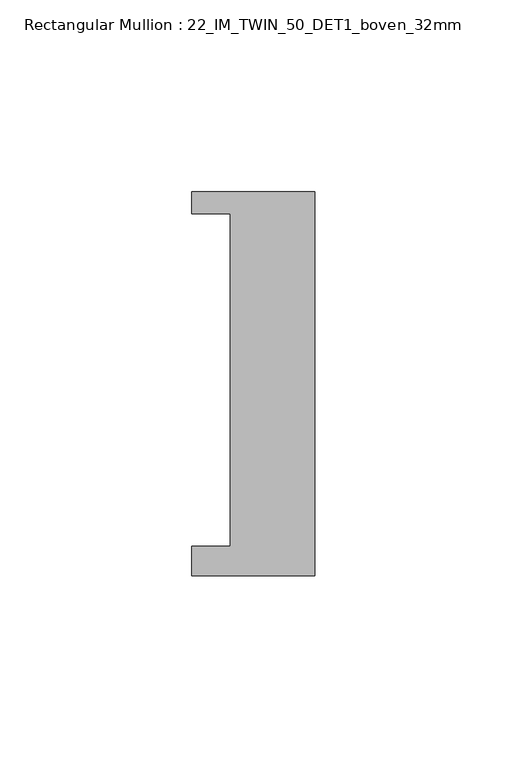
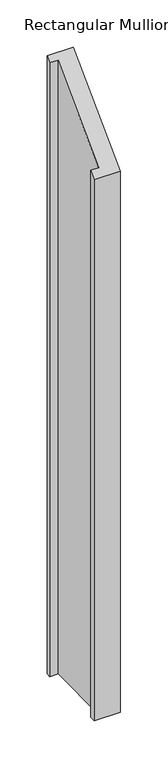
"""IFC4 building model written with IfcOpenShell, lengths in millimetres: member geometry, Rectangular Mullion : 22_IM_TWIN_50_DET1_boven_32mm."""

import ifcopenshell
import ifcopenshell.guid

model = None  # the IFC model being written
_history = None  # IfcOwnerHistory: only IFC2X3 demands one
_inside = {}  # id of a spatial element -> (the spatial element, [elements in it])
_under = {}  # id of a project, library or spatial element -> (it, [spatial elements below it])
_declared = {}  # id of a project -> (the project, [libraries it declares])
_typed = {}  # id of a type object -> (the type object, [elements of that type])
_made_of = {}  # id of a material, layer set ... -> (it, [elements and type objects made of it])


def new_model(schema):
    """Start an empty IFC model of exactly this schema.

    Asked for "IFC4X3", IfcOpenShell would pick the latest addendum, in which some entities
    have other attributes; the version numbers below select the first issue.
    IFC2X3 requires an IfcOwnerHistory on every rooted entity: one is made here for all.
    """
    global model, _history
    if schema == "IFC4X3":
        model = ifcopenshell.file(schema_version=(4, 3, 0, 0))
    else:
        model = ifcopenshell.file(schema=schema)
    _inside.clear()
    _under.clear()
    _declared.clear()
    _typed.clear()
    _made_of.clear()
    _history = None
    if model.schema == "IFC2X3":
        org = make("IfcOrganization", Name="unknown")
        user = make(
            "IfcPersonAndOrganization",
            ThePerson=make("IfcPerson", FamilyName="unknown"),
            TheOrganization=org,
        )
        app = make(
            "IfcApplication",
            ApplicationDeveloper=org,
            Version="unknown",
            ApplicationFullName="unknown",
            ApplicationIdentifier="unknown",
        )
        _history = make(
            "IfcOwnerHistory",
            OwningUser=user,
            OwningApplication=app,
            ChangeAction="ADDED",
            CreationDate=0,
        )
    return model


def make(cls, **values):
    """One entity of the class cls with the attributes given. An attribute that is None is left unset."""
    return model.create_entity(
        cls, **{name: value for name, value in values.items() if value is not None}
    )


def rooted(cls, **values):
    """An entity with a GlobalId (a new one), such as an element, a storey or a relation."""
    return make(cls, GlobalId=ifcopenshell.guid.new(), OwnerHistory=_history, **values)


def si_unit(unit_type, name, prefix=None):
    """IfcSIUnit, for example si_unit("LENGTHUNIT", "METRE", prefix="MILLI")."""
    return make("IfcSIUnit", UnitType=unit_type, Prefix=prefix, Name=name)


def assignment(units):
    """IfcUnitAssignment: the units of a project."""
    return None if units is None else make("IfcUnitAssignment", Units=units)


def point(xyz):
    """IfcCartesianPoint."""
    return None if xyz is None else make("IfcCartesianPoint", Coordinates=xyz)


def direction(xyz):
    """IfcDirection."""
    return None if xyz is None else make("IfcDirection", DirectionRatios=xyz)


def frame(location, z_axis=None, x_axis=None):
    """IfcAxis2Placement3D, a coordinate frame: its origin and axes. An axis left out is left unset."""
    return make(
        "IfcAxis2Placement3D",
        Location=point(location),
        Axis=direction(z_axis),
        RefDirection=direction(x_axis),
    )


def origin():
    """The frame at (0, 0, 0) with its axes left unset."""
    return frame((0.0, 0.0, 0.0))


def place(relative_to, where):
    """IfcLocalPlacement: puts the frame where relative to a parent placement (None: the world)."""
    return make(
        "IfcLocalPlacement", PlacementRelTo=relative_to, RelativePlacement=where
    )


def context(
    kind, dimensions, precision=None, world=None, true_north=None, identifier=None
):
    """IfcGeometricRepresentationContext, for example the 3D "Model" context."""
    return make(
        "IfcGeometricRepresentationContext",
        ContextIdentifier=identifier,
        ContextType=kind,
        CoordinateSpaceDimension=dimensions,
        Precision=precision,
        WorldCoordinateSystem=world,
        TrueNorth=true_north,
    )


def project(units=None, contexts=None):
    """IfcProject with its units and contexts."""
    return rooted(
        "IfcProject",
        Name="project",
        RepresentationContexts=contexts,
        UnitsInContext=assignment(units),
    )


def spatial(cls, under=None, at=None, **own):
    """A site, building, storey or space (cls), placed at a placement, below another one or the project."""
    s = rooted(cls, ObjectPlacement=at, **own)
    if under is not None:
        _under.setdefault(under.id(), (under, []))[1].append(s)
    return s


def faces_of(points, faces, orient=None, outer=None):
    """IfcFace entities. A face is a list of loops; a loop is a list of indices into points, from 0.

    orient and outer hold one flag for each loop. By default every Orientation is true, the
    first loop of a face is its IfcFaceOuterBound and the others are IfcFaceBound.
    """
    made = []
    for i, loops in enumerate(faces):
        bounds = []
        for j, loop in enumerate(loops):
            is_outer = j == 0 if outer is None else outer[i][j]
            bounds.append(
                make(
                    "IfcFaceOuterBound" if is_outer else "IfcFaceBound",
                    Bound=make("IfcPolyLoop", Polygon=[points[k] for k in loop]),
                    Orientation=True if orient is None else orient[i][j],
                )
            )
        made.append(make("IfcFace", Bounds=bounds))
    return made


def faceted_brep(points, faces, orient=None, outer=None, voids=None):
    """IfcFacetedBrep: a solid bounded by flat faces; with voids (closed shells), ...WithVoids."""
    shared = [point(p) for p in points]
    hull = make("IfcClosedShell", CfsFaces=faces_of(shared, faces, orient, outer))
    if voids is None:
        return make("IfcFacetedBrep", Outer=hull)
    return make(
        "IfcFacetedBrepWithVoids",
        Outer=hull,
        Voids=[
            make(cls, CfsFaces=faces_of(shared, fs, o, b)) for cls, fs, o, b in voids
        ],
    )


def shape(context_of_items, identifier, shape_type, items):
    """IfcShapeRepresentation: the items that make up one representation, for example the "Body"."""
    return make(
        "IfcShapeRepresentation",
        ContextOfItems=context_of_items,
        RepresentationIdentifier=identifier,
        RepresentationType=shape_type,
        Items=items,
    )


def source(mapping_origin, context_of_items, identifier, shape_type, items):
    """IfcRepresentationMap: a shape defined once, which mapped items show again and again."""
    return make(
        "IfcRepresentationMap",
        MappingOrigin=mapping_origin,
        MappedRepresentation=shape(context_of_items, identifier, shape_type, items),
    )


def transform(
    local_origin,
    x_axis=None,
    y_axis=None,
    z_axis=None,
    scale=None,
    scale2=None,
    scale3=None,
    uniform=True,
):
    """IfcCartesianTransformationOperator3D, or its non-uniform kind. x_axis, y_axis, z_axis: its Axis1, 2, 3."""
    if uniform:
        return make(
            "IfcCartesianTransformationOperator3D",
            Axis1=direction(x_axis),
            Axis2=direction(y_axis),
            LocalOrigin=point(local_origin),
            Scale=scale,
            Axis3=direction(z_axis),
        )
    return make(
        "IfcCartesianTransformationOperator3DnonUniform",
        Axis1=direction(x_axis),
        Axis2=direction(y_axis),
        LocalOrigin=point(local_origin),
        Scale=scale,
        Axis3=direction(z_axis),
        Scale2=scale2,
        Scale3=scale3,
    )


def mapped(mapping_source, mapping_target):
    """IfcMappedItem: shows the shape of a source again, moved by a transform."""
    return make(
        "IfcMappedItem", MappingSource=mapping_source, MappingTarget=mapping_target
    )


def made_of(thing, what):
    """Note that an element or type object is made of a material, layer set ...; save() writes the relation."""
    if what is not None:
        _made_of.setdefault(what.id(), (what, []))[1].append(thing)
    return thing


def element(
    cls,
    number,
    at=None,
    inside=None,
    cuts=None,
    type_object=None,
    material=None,
    context=None,
    identifier="Body",
    shape_type=None,
    held_by="IfcProductDefinitionShape",
    body=None,
    shapes=None,
    **own,
):
    """One element of the class cls, such as IfcWall. Its Tag is "e" and its number.

    at: its placement. inside: the storey or other place that contains it. cuts: it is an
    opening in that element (IfcRelVoidsElement). A single representation is given by context,
    identifier, shape_type and body (its items); several are given by shapes. held_by: the class
    of the entity that holds the representations. save() writes the other relations.
    """
    e = rooted(cls, Tag="e%d" % number, ObjectPlacement=at, **own)
    if body is not None:
        shapes = [shape(context, identifier, shape_type, body)]
    if shapes is not None:
        e.Representation = make(held_by, Representations=shapes)
    if inside is not None:
        _inside.setdefault(inside.id(), (inside, []))[1].append(e)
    if cuts is not None:
        rooted(
            "IfcRelVoidsElement", RelatingBuildingElement=cuts, RelatedOpeningElement=e
        )
    if type_object is not None:
        _typed.setdefault(type_object.id(), (type_object, []))[1].append(e)
    return made_of(e, material)


def aggregate(whole, parts):
    """IfcRelAggregates: a whole, such as a stair, and the parts it consists of."""
    return rooted("IfcRelAggregates", RelatingObject=whole, RelatedObjects=parts)


def save(model, path):
    """Write the relations noted so far, then the file.

    IfcRelAggregates (storeys below a building ...), IfcRelContainedInSpatialStructure (elements
    in a storey), IfcRelDefinesByType, IfcRelAssociatesMaterial and IfcRelDeclares: one each for
    every whole, place, type object, material and project.
    """
    for whole, parts in _under.values():
        aggregate(whole, parts)
    for where, things in _inside.values():
        rooted(
            "IfcRelContainedInSpatialStructure",
            RelatedElements=things,
            RelatingStructure=where,
        )
    for kind, things in _typed.values():
        rooted("IfcRelDefinesByType", RelatedObjects=things, RelatingType=kind)
    for what, things in _made_of.values():
        rooted("IfcRelAssociatesMaterial", RelatedObjects=things, RelatingMaterial=what)
    for by, libraries in _declared.values():
        rooted("IfcRelDeclares", RelatingContext=by, RelatedDefinitions=libraries)
    model.write(path)


def rectangular_mullion_22_im_twin_50_det1_boven_32mm_ebdecf88(model_context):
    return source(origin(), model_context, "Body", "Brep", [
        faceted_brep([(-32.0, 50.0, -749.9903134), (0.0, 50.0, -749.9903134), (0.0, -50.0, -749.9903134), (-32.0, -50.0, -749.9903134), (-32.0, -42.3, -749.9903134), (-22.0, -42.3, -749.9903134), (-22.0, 44.3, -749.9903134), (-32.0, 44.3, -749.9903134), (-32.0, 44.3, 44.3), (-32.0, 50.0, 50.0), (-22.0, 44.3, 44.3), (-22.0, -42.3, -42.3), (-32.0, -42.3, -42.3), (-32.0, -50.0, -50.0), (0.0, -50.0, -50.0), (0.0, 50.0, 50.0)], [[[0, 1, 2, 3, 4, 5, 6, 7]], [[8, 9, 0, 7]], [[10, 8, 7, 6]], [[11, 10, 6, 5]], [[12, 11, 5, 4]], [[13, 12, 4, 3]], [[14, 13, 3, 2]], [[15, 14, 2, 1]], [[9, 15, 1, 0]], [[9, 8, 10, 11, 12, 13, 14, 15]]]),
    ])


if __name__ == "__main__":
    model = new_model("IFC4")
    model_context = context("Model", 3, world=origin())
    ifc_project = project(units=[si_unit("LENGTHUNIT", "METRE", prefix="MILLI")], contexts=[model_context])
    site = spatial("IfcSite", under=ifc_project)
    building = spatial("IfcBuilding", under=site)
    placement = place(None, origin())
    rectangular_mullion_22_im_twin_50_det1_boven_32mm_shape = rectangular_mullion_22_im_twin_50_det1_boven_32mm_ebdecf88(model_context)
    element("IfcMember", 1, ObjectType="Rectangular Mullion : 22_IM_TWIN_50_DET1_boven_32mm", at=placement, inside=building, context=model_context, shape_type="MappedRepresentation", body=[
        mapped(rectangular_mullion_22_im_twin_50_det1_boven_32mm_shape, transform((0.0, 0.0, 0.0), x_axis=(1.0, 0.0, 0.0), y_axis=(0.0, 1.0, 0.0), z_axis=(0.0, 0.0, 1.0))),
    ])
    save(model, "model.ifc")
